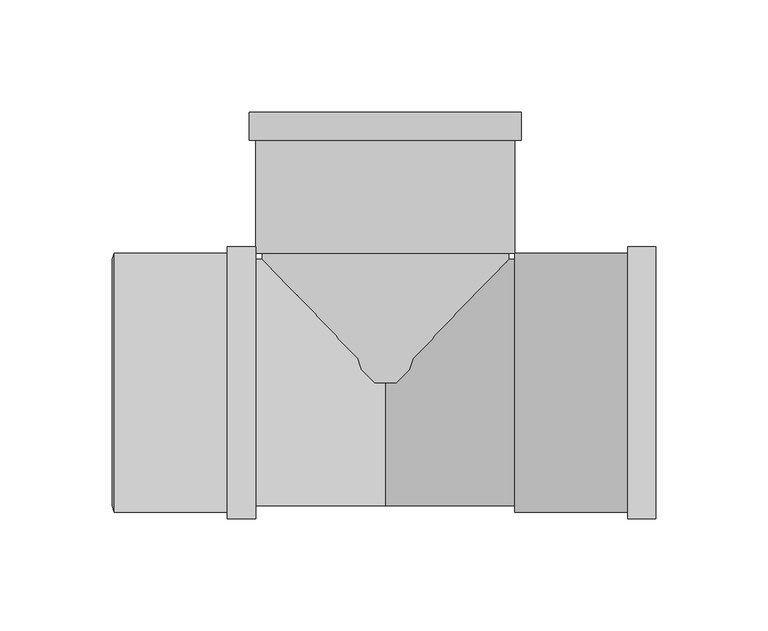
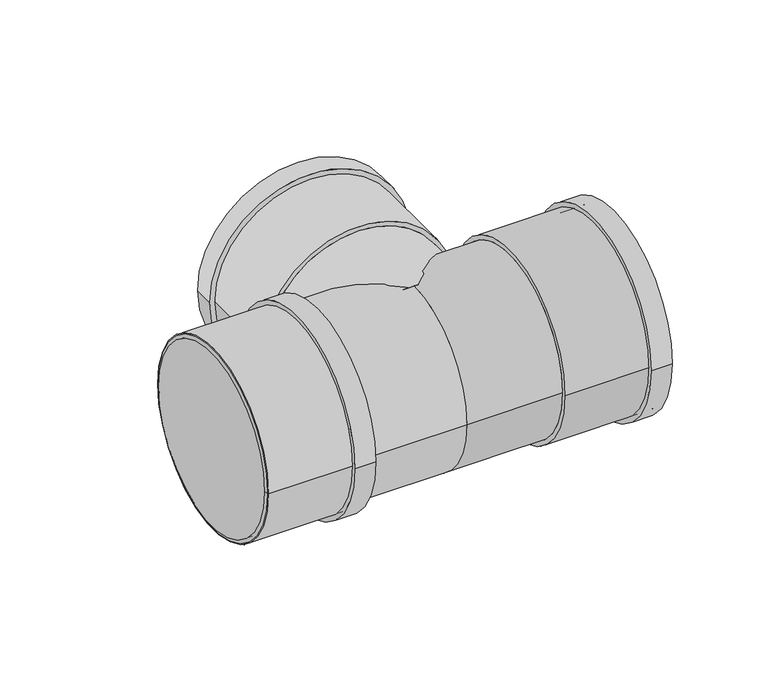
"""IFC4 building model written with IfcOpenShell, lengths in millimetres: pipe fitting geometry, Superdrain HTEA Branch : Superdrain HTEA Branch."""

from ifc_helpers import new_model, si_unit, point, frame, origin, origin_2d, place, context, project, spatial, polyline, circle_curve, trimmed, segment, composite_curve, outline, extrude, source, transform, mapped, element, save
from ifc_brep_helpers import plane_surface, revolved_surface, advanced_brep


def pipe_fitting_2b49e200(model_context):
    return source(origin(), model_context, "Body", "SolidModel", [
        extrude(outline(composite_curve([segment(trimmed(circle_curve(origin_2d(), 57.75), [point((57.75, 0.0))], [point((-57.75, 0.0))], False, "CARTESIAN"), True, "CONTINUOUS"), segment(trimmed(circle_curve(origin_2d(), 57.75), [point((-57.75, 0.0))], [point((57.75, 0.0))], False, "CARTESIAN"), True, "CONTINUOUS")], self_intersect=False), holes=[composite_curve([segment(trimmed(circle_curve(origin_2d(), 55.0), [point((55.0, 0.0))], [point((-55.0, 0.0))], True, "CARTESIAN"), True, "CONTINUOUS"), segment(trimmed(circle_curve(origin_2d(), 55.0), [point((-55.0, 0.0))], [point((55.0, 0.0))], True, "CARTESIAN"), True, "CONTINUOUS")], self_intersect=False)]), frame((-120.9, 0.0, 0.0), z_axis=(1.0, 0.0, 0.0), x_axis=(0.0, 1.0, 0.0)), (0.0, 0.0, 1.0), 63.0),
        extrude(outline(composite_curve([segment(trimmed(circle_curve(origin_2d(), 60.6375), [point((60.6375, 0.0))], [point((-60.6375, 0.0))], False, "CARTESIAN"), True, "CONTINUOUS"), segment(trimmed(circle_curve(origin_2d(), 60.6375), [point((-60.6375, 0.0))], [point((60.6375, 0.0))], False, "CARTESIAN"), True, "CONTINUOUS")], self_intersect=False), holes=[composite_curve([segment(trimmed(circle_curve(origin_2d(), 55.0), [point((55.0, 0.0))], [point((-55.0, 0.0))], True, "CARTESIAN"), True, "CONTINUOUS"), segment(trimmed(circle_curve(origin_2d(), 55.0), [point((-55.0, 0.0))], [point((55.0, 0.0))], True, "CARTESIAN"), True, "CONTINUOUS")], self_intersect=False)]), frame((-70.5, 0.0, 0.0), z_axis=(1.0, 0.0, 0.0), x_axis=(0.0, 1.0, 0.0)), (0.0, 0.0, 1.0), 12.6),
        advanced_brep(
        [(-121.9, 55.0, 0.0), (-121.9, -55.0, 0.0), (-120.9, 57.75, 0.0), (-120.9, -57.75, 0.0)],
        [
            (0, 1, circle_curve(frame((-121.9, 0.0, 0.0), z_axis=(-1.0, 0.0, 0.0), x_axis=(0.0, 1.0, 0.0)), 55.0)),
            (1, 0, circle_curve(frame((-121.9, 0.0, 0.0), z_axis=(-1.0, 0.0, 0.0), x_axis=(0.0, -1.0, 0.0)), 55.0)),
            (2, 3, circle_curve(frame((-120.9, 0.0, 0.0), z_axis=(1.0, 0.0, 0.0), x_axis=(0.0, -1.0, 0.0)), 57.75)),
            (3, 2, circle_curve(frame((-120.9, 0.0, 0.0), z_axis=(1.0, 0.0, 0.0), x_axis=(0.0, 1.0, 0.0)), 57.75)),
            (3, 1),
            (0, 2),
        ],
        [
            plane_surface(frame((-121.9, 0.0, 0.0), z_axis=(-1.0, 0.0, 0.0), x_axis=(0.0, 0.0, -1.0))),
            plane_surface(frame((-120.9, 0.0, 0.0), z_axis=(1.0, 0.0, 0.0), x_axis=(0.0, 0.0, -1.0))),
            revolved_surface(polyline([(-121.9, 55.0, 0.0), (-120.9, 57.75, 0.0)]), (-141.9, 0.0, 0.0), (1.0, 0.0, 0.0)),
            revolved_surface(polyline([(-121.9, -55.0, 0.0), (-120.9, -57.75, 0.0)]), (-141.9, 0.0, 0.0), (1.0, 0.0, 0.0)),
        ],
        [
            (0, [[1, 2]]),
            (1, [[3, 4]]),
            (2, [[-4, 5, -1, 6]]),
            (3, [[-3, -6, -2, -5]]),
        ],
    ),
        extrude(outline(composite_curve([segment(trimmed(circle_curve(origin_2d(), 57.75), [point((-57.75, 0.0))], [point((57.75, 0.0))], False, "CARTESIAN"), True, "CONTINUOUS"), segment(trimmed(circle_curve(origin_2d(), 57.75), [point((57.75, 0.0))], [point((-57.75, 0.0))], False, "CARTESIAN"), True, "CONTINUOUS")], self_intersect=False), holes=[composite_curve([segment(trimmed(circle_curve(origin_2d(), 55.0), [point((55.0, 0.0))], [point((-55.0, 0.0))], True, "CARTESIAN"), True, "CONTINUOUS"), segment(trimmed(circle_curve(origin_2d(), 55.0), [point((-55.0, 0.0))], [point((55.0, 0.0))], True, "CARTESIAN"), True, "CONTINUOUS")], self_intersect=False)]), frame((57.6, 0.0, 0.0), z_axis=(1.0, 0.0, 0.0), x_axis=(0.0, 1.0, 0.0)), (0.0, 0.0, 1.0), 63.0),
        extrude(outline(composite_curve([segment(trimmed(circle_curve(origin_2d(), 60.6375), [point((60.6375, 0.0))], [point((-60.6375, 0.0))], False, "CARTESIAN"), True, "CONTINUOUS"), segment(trimmed(circle_curve(origin_2d(), 60.6375), [point((-60.6375, 0.0))], [point((60.6375, 0.0))], False, "CARTESIAN"), True, "CONTINUOUS")], self_intersect=False), holes=[composite_curve([segment(trimmed(circle_curve(origin_2d(), 55.0), [point((55.0, 0.0))], [point((-55.0, 0.0))], True, "CARTESIAN"), True, "CONTINUOUS"), segment(trimmed(circle_curve(origin_2d(), 55.0), [point((-55.0, 0.0))], [point((55.0, 0.0))], True, "CARTESIAN"), True, "CONTINUOUS")], self_intersect=False)]), frame((108.0, 0.0, 0.0), z_axis=(1.0, 0.0, 0.0), x_axis=(0.0, 1.0, 0.0)), (0.0, 0.0, 1.0), 12.6),
        extrude(outline(composite_curve([segment(trimmed(circle_curve(origin_2d(), 55.0), [point((0.0, 55.0))], [point((0.0, -55.0))], False, "CARTESIAN"), True, "CONTINUOUS"), segment(trimmed(circle_curve(origin_2d(), 55.0), [point((0.0, -55.0))], [point((0.0, 55.0))], False, "CARTESIAN"), True, "CONTINUOUS")], self_intersect=False)), frame((0.0, 0.0, 0.0), z_axis=(0.0, 1.0, 0.0), x_axis=(0.0, 0.0, 1.0)), (0.0, 0.0, 1.0), 57.6),
        extrude(outline(composite_curve([segment(trimmed(circle_curve(origin_2d(), 55.0), [point((55.0, 0.0))], [point((-55.0, 0.0))], False, "CARTESIAN"), True, "CONTINUOUS"), segment(trimmed(circle_curve(origin_2d(), 55.0), [point((-55.0, 0.0))], [point((55.0, 0.0))], False, "CARTESIAN"), True, "CONTINUOUS")], self_intersect=False)), frame((-120.9, 0.0, 0.0), z_axis=(1.0, 0.0, 0.0), x_axis=(0.0, 1.0, 0.0)), (0.0, 0.0, 1.0), 120.9),
        extrude(outline(composite_curve([segment(trimmed(circle_curve(origin_2d(), 55.0), [point((-55.0, 0.0))], [point((55.0, 0.0))], False, "CARTESIAN"), True, "CONTINUOUS"), segment(trimmed(circle_curve(origin_2d(), 55.0), [point((55.0, 0.0))], [point((-55.0, 0.0))], False, "CARTESIAN"), True, "CONTINUOUS")], self_intersect=False)), frame((0.0, 0.0, 0.0), z_axis=(1.0, 0.0, 0.0), x_axis=(0.0, 1.0, 0.0)), (0.0, 0.0, 1.0), 57.6),
        extrude(outline(composite_curve([segment(trimmed(circle_curve(origin_2d(), 60.6375), [point((0.0, 60.6375))], [point((0.0, -60.6375))], False, "CARTESIAN"), True, "CONTINUOUS"), segment(trimmed(circle_curve(origin_2d(), 60.6375), [point((0.0, -60.6375))], [point((0.0, 60.6375))], False, "CARTESIAN"), True, "CONTINUOUS")], self_intersect=False), holes=[composite_curve([segment(trimmed(circle_curve(origin_2d(), 55.0), [point((0.0, 55.0))], [point((0.0, -55.0))], True, "CARTESIAN"), True, "CONTINUOUS"), segment(trimmed(circle_curve(origin_2d(), 55.0), [point((0.0, -55.0))], [point((0.0, 55.0))], True, "CARTESIAN"), True, "CONTINUOUS")], self_intersect=False)]), frame((0.0, 108.0, 0.0), z_axis=(0.0, 1.0, 0.0), x_axis=(0.0, 0.0, 1.0)), (0.0, 0.0, 1.0), 12.6),
        extrude(outline(composite_curve([segment(trimmed(circle_curve(origin_2d(), 57.75), [point((0.0, 57.75))], [point((0.0, -57.75))], False, "CARTESIAN"), True, "CONTINUOUS"), segment(trimmed(circle_curve(origin_2d(), 57.75), [point((0.0, -57.75))], [point((0.0, 57.75))], False, "CARTESIAN"), True, "CONTINUOUS")], self_intersect=False), holes=[composite_curve([segment(trimmed(circle_curve(origin_2d(), 55.0), [point((0.0, 55.0))], [point((0.0, -55.0))], True, "CARTESIAN"), True, "CONTINUOUS"), segment(trimmed(circle_curve(origin_2d(), 55.0), [point((0.0, -55.0))], [point((0.0, 55.0))], True, "CARTESIAN"), True, "CONTINUOUS")], self_intersect=False)]), frame((0.0, 57.6, 0.0), z_axis=(0.0, 1.0, 0.0), x_axis=(0.0, 0.0, 1.0)), (0.0, 0.0, 1.0), 63.0),
    ])


if __name__ == "__main__":
    model = new_model("IFC4")
    model_context = context("Model", 3, world=origin())
    ifc_project = project(units=[si_unit("LENGTHUNIT", "METRE", prefix="MILLI")], contexts=[model_context])
    site = spatial("IfcSite", under=ifc_project)
    building = spatial("IfcBuilding", under=site)
    placement = place(None, origin())
    pipe_fitting_shape = pipe_fitting_2b49e200(model_context)
    element("IfcPipeFitting", 1, ObjectType="Superdrain HTEA Branch : Superdrain HTEA Branch", at=placement, inside=building, context=model_context, shape_type="MappedRepresentation", body=[
        mapped(pipe_fitting_shape, transform((0.0, 0.0, 0.0), x_axis=(1.0, 0.0, 0.0), y_axis=(0.0, 1.0, 0.0), z_axis=(0.0, 0.0, 1.0))),
    ])
    save(model, "model.ifc")
